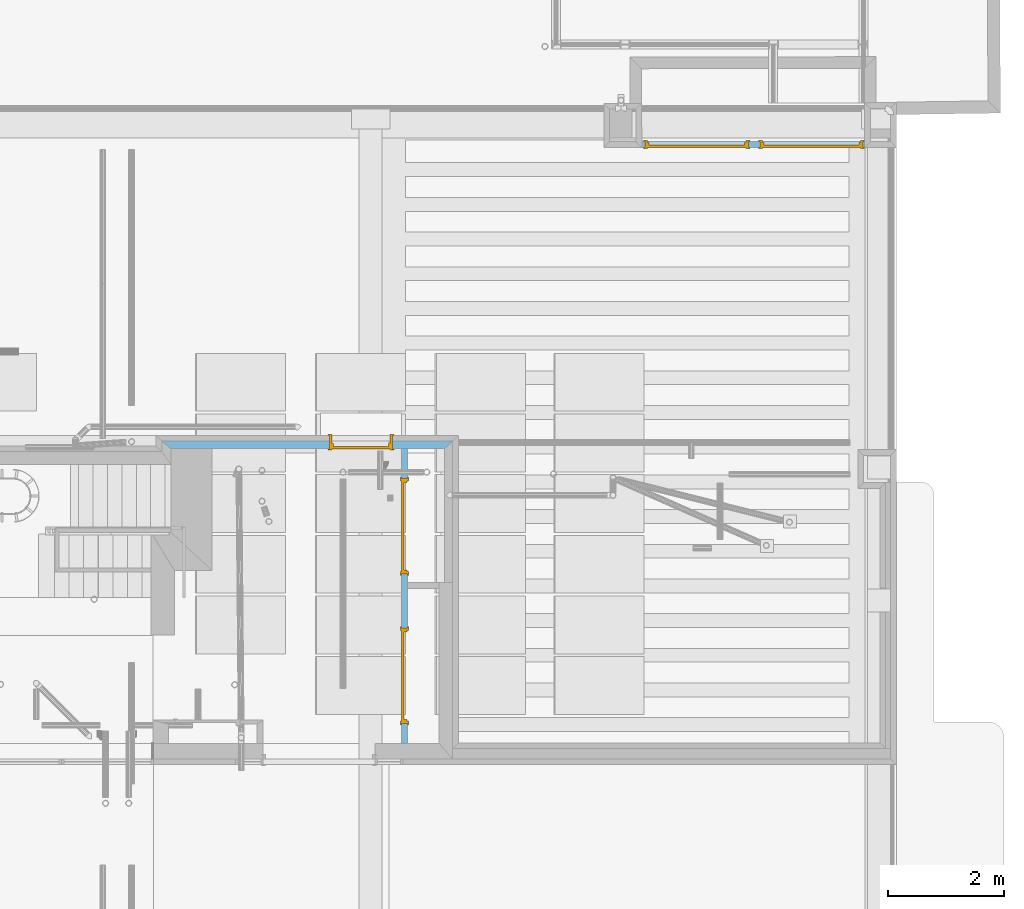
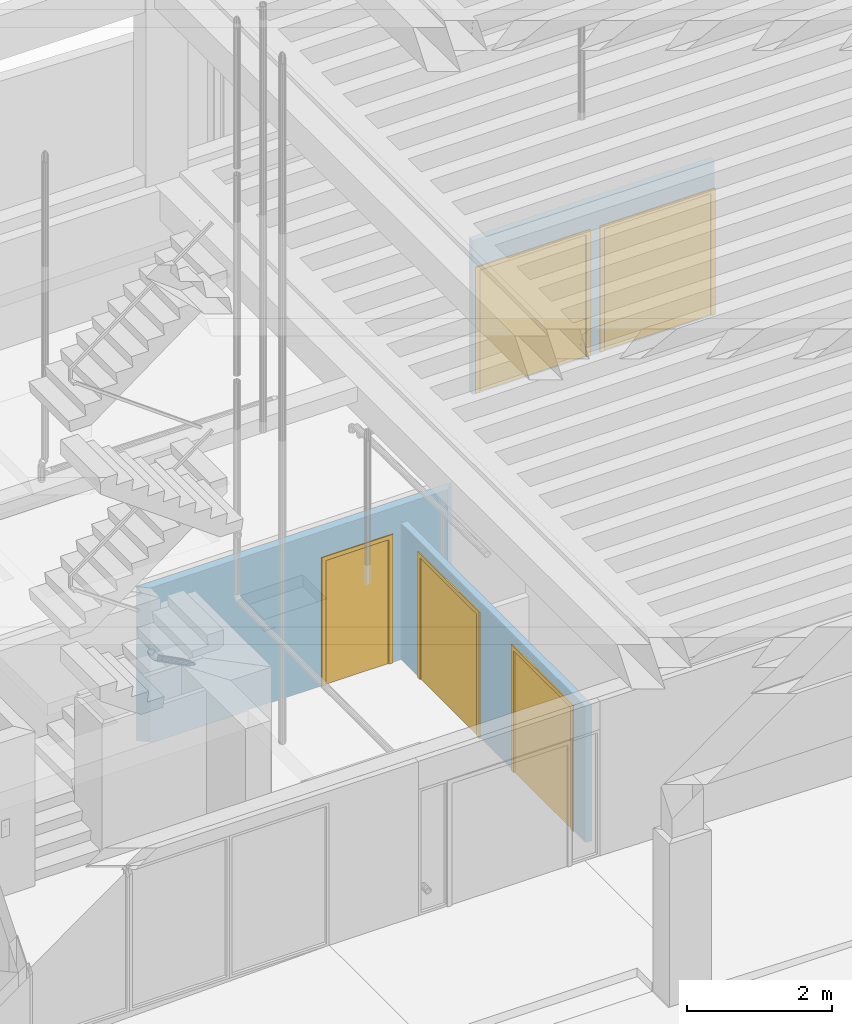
# One storey, part 23 of 108: 5 doors, 5 openings, plus 3 elements that do not belong to this part.
"""IFC2X3 building model written with IfcOpenShell, lengths in metres."""

from ifc_helpers import new_model, entity, si_unit, converted_unit, derived_unit, money_unit, direction, frame, frame_2d, origin_with_axes, place, context, subcontext, project, spatial, polyline, rectangle, outline, extrude, faceted_brep, material, layer, layer_set, layer_usage, type_object, element, fill, save


model = new_model("IFC2X3")

# Units and contexts
model_context = context("Model", 3, precision=1e-05, world=origin_with_axes(), true_north=direction((0.0, 1.0)))
body_context = subcontext(model_context, "Body", "Model", "MODEL_VIEW", scale=1.0)
ifc_project = project(units=[si_unit("LENGTHUNIT", "METRE"), si_unit("AREAUNIT", "SQUARE_METRE"), si_unit("VOLUMEUNIT", "CUBIC_METRE"), si_unit("ABSORBEDDOSEUNIT", "GRAY"), si_unit("AMOUNTOFSUBSTANCEUNIT", "MOLE"), si_unit("DOSEEQUIVALENTUNIT", "SIEVERT"), si_unit("ELECTRICCAPACITANCEUNIT", "FARAD"), si_unit("ELECTRICCHARGEUNIT", "COULOMB"), si_unit("ELECTRICCONDUCTANCEUNIT", "SIEMENS"), si_unit("ELECTRICCURRENTUNIT", "AMPERE"), si_unit("ELECTRICRESISTANCEUNIT", "OHM"), si_unit("ELECTRICVOLTAGEUNIT", "VOLT"), si_unit("ENERGYUNIT", "JOULE"), si_unit("FORCEUNIT", "NEWTON"), si_unit("FREQUENCYUNIT", "HERTZ"), si_unit("ILLUMINANCEUNIT", "LUX"), si_unit("INDUCTANCEUNIT", "HENRY"), si_unit("LUMINOUSFLUXUNIT", "LUMEN"), si_unit("LUMINOUSINTENSITYUNIT", "CANDELA"), si_unit("MAGNETICFLUXDENSITYUNIT", "TESLA"), si_unit("MAGNETICFLUXUNIT", "WEBER"), si_unit("MASSUNIT", "GRAM"), converted_unit("PLANEANGLEUNIT", "degree", entity("IfcReal", 0.0174532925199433), si_unit("PLANEANGLEUNIT", "RADIAN"), dimensions=[0, 0, 0, 0, 0, 0, 0]), si_unit("POWERUNIT", "WATT"), si_unit("PRESSUREUNIT", "PASCAL"), si_unit("RADIOACTIVITYUNIT", "BECQUEREL"), si_unit("SOLIDANGLEUNIT", "STERADIAN"), si_unit("THERMODYNAMICTEMPERATUREUNIT", "KELVIN"), si_unit("TIMEUNIT", "SECOND"), derived_unit("ACCELERATIONUNIT", [(si_unit("LENGTHUNIT", "METRE"), 1), (si_unit("TIMEUNIT", "SECOND"), -2)]), derived_unit("ANGULARVELOCITYUNIT", [(converted_unit("PLANEANGLEUNIT", "degree", entity("IfcReal", 0.0174532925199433), si_unit("PLANEANGLEUNIT", "RADIAN"), dimensions=[0, 0, 0, 0, 0, 0, 0]), 1), (si_unit("TIMEUNIT", "SECOND"), -1)]), derived_unit("CURVATUREUNIT", [(converted_unit("PLANEANGLEUNIT", "degree", entity("IfcReal", 0.0174532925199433), si_unit("PLANEANGLEUNIT", "RADIAN"), dimensions=[0, 0, 0, 0, 0, 0, 0]), 1), (si_unit("LENGTHUNIT", "METRE"), -1)]), derived_unit("DYNAMICVISCOSITYUNIT", [(si_unit("PRESSUREUNIT", "PASCAL"), 1), (si_unit("TIMEUNIT", "SECOND"), 1)]), derived_unit("HEATFLUXDENSITYUNIT", [(si_unit("POWERUNIT", "WATT"), 1), (si_unit("LENGTHUNIT", "METRE"), -2)]), derived_unit("HEATINGVALUEUNIT", [(si_unit("ENERGYUNIT", "JOULE"), 1), (si_unit("MASSUNIT", "GRAM"), -1)]), derived_unit("INTEGERCOUNTRATEUNIT", [(si_unit("TIMEUNIT", "SECOND"), -1)]), derived_unit("IONCONCENTRATIONUNIT", [(si_unit("MASSUNIT", "GRAM"), 1), (si_unit("VOLUMEUNIT", "CUBIC_METRE"), -1)]), derived_unit("ISOTHERMALMOISTURECAPACITYUNIT", [(si_unit("VOLUMEUNIT", "CUBIC_METRE"), 1), (si_unit("MASSUNIT", "GRAM"), -1)]), derived_unit("KINEMATICVISCOSITYUNIT", [(si_unit("AREAUNIT", "SQUARE_METRE"), 1), (si_unit("TIMEUNIT", "SECOND"), -1)]), derived_unit("LINEARFORCEUNIT", [(si_unit("FORCEUNIT", "NEWTON"), 1), (si_unit("LENGTHUNIT", "METRE"), -1)]), derived_unit("LINEARMOMENTUNIT", [(si_unit("FORCEUNIT", "NEWTON"), 1), (si_unit("LENGTHUNIT", "METRE"), -1)]), derived_unit("LINEARSTIFFNESSUNIT", [(si_unit("FORCEUNIT", "NEWTON"), 1), (si_unit("LENGTHUNIT", "METRE"), -1)]), derived_unit("LINEARVELOCITYUNIT", [(si_unit("LENGTHUNIT", "METRE"), 1), (si_unit("TIMEUNIT", "SECOND"), -1)]), derived_unit("LUMINOUSINTENSITYDISTRIBUTIONUNIT", [(si_unit("LUMINOUSINTENSITYUNIT", "CANDELA"), 1), (si_unit("LUMINOUSFLUXUNIT", "LUMEN"), -1)]), derived_unit("MASSDENSITYUNIT", [(si_unit("MASSUNIT", "GRAM"), 1), (si_unit("VOLUMEUNIT", "CUBIC_METRE"), -1)]), derived_unit("MASSFLOWRATEUNIT", [(si_unit("MASSUNIT", "GRAM"), 1), (si_unit("TIMEUNIT", "SECOND"), -1)]), derived_unit("MASSPERLENGTHUNIT", [(si_unit("MASSUNIT", "GRAM"), 1), (si_unit("LENGTHUNIT", "METRE"), -1)]), derived_unit("MODULUSOFELASTICITYUNIT", [(si_unit("FORCEUNIT", "NEWTON"), 1), (si_unit("AREAUNIT", "SQUARE_METRE"), -1)]), derived_unit("MODULUSOFLINEARSUBGRADEREACTIONUNIT", [(si_unit("FORCEUNIT", "NEWTON"), 1), (si_unit("LENGTHUNIT", "METRE"), -2)]), derived_unit("MODULUSOFROTATIONALSUBGRADEREACTIONUNIT", [(si_unit("FORCEUNIT", "NEWTON"), 1), (si_unit("LENGTHUNIT", "METRE"), 1)]), derived_unit("MODULUSOFSUBGRADEREACTIONUNIT", [(si_unit("FORCEUNIT", "NEWTON"), 1), (si_unit("VOLUMEUNIT", "CUBIC_METRE"), -1)]), derived_unit("MOISTUREDIFFUSIVITYUNIT", [(si_unit("VOLUMEUNIT", "CUBIC_METRE"), 1), (si_unit("TIMEUNIT", "SECOND"), -1)]), derived_unit("MOLECULARWEIGHTUNIT", [(si_unit("MASSUNIT", "GRAM"), 1), (si_unit("AMOUNTOFSUBSTANCEUNIT", "MOLE"), -1)]), derived_unit("PLANARFORCEUNIT", [(si_unit("FORCEUNIT", "NEWTON"), 1), (si_unit("LENGTHUNIT", "METRE"), -2)]), derived_unit("ROTATIONALFREQUENCYUNIT", [(si_unit("TIMEUNIT", "SECOND"), -1)]), derived_unit("ROTATIONALMASSUNIT", [(si_unit("MASSUNIT", "GRAM"), 1), (si_unit("LENGTHUNIT", "METRE"), 2)]), derived_unit("ROTATIONALSTIFFNESSUNIT", [(si_unit("FORCEUNIT", "NEWTON"), 1), (si_unit("LENGTHUNIT", "METRE"), 1), (converted_unit("PLANEANGLEUNIT", "degree", entity("IfcReal", 0.0174532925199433), si_unit("PLANEANGLEUNIT", "RADIAN"), dimensions=[0, 0, 0, 0, 0, 0, 0]), -1)]), derived_unit("SECTIONAREAINTEGRALUNIT", [(si_unit("LENGTHUNIT", "METRE"), 5)]), derived_unit("SECTIONMODULUSUNIT", [(si_unit("LENGTHUNIT", "METRE"), 3)]), derived_unit("SHEARMODULUSUNIT", [(si_unit("FORCEUNIT", "NEWTON"), 1), (si_unit("AREAUNIT", "SQUARE_METRE"), -1)]), derived_unit("SOUNDPOWERUNIT", [(si_unit("ENERGYUNIT", "JOULE"), 1), (si_unit("TIMEUNIT", "SECOND"), -1)]), derived_unit("SPECIFICHEATCAPACITYUNIT", [(si_unit("FORCEUNIT", "NEWTON"), 1), (si_unit("MASSUNIT", "GRAM"), -1), (si_unit("THERMODYNAMICTEMPERATUREUNIT", "KELVIN"), -1)]), derived_unit("TEMPERATUREGRADIENTUNIT", [(si_unit("THERMODYNAMICTEMPERATUREUNIT", "KELVIN"), 1), (si_unit("LENGTHUNIT", "METRE"), -1)]), derived_unit("THERMALADMITTANCEUNIT", [(si_unit("POWERUNIT", "WATT"), 1), (si_unit("AREAUNIT", "SQUARE_METRE"), -1), (si_unit("THERMODYNAMICTEMPERATUREUNIT", "KELVIN"), -1)]), derived_unit("THERMALCONDUCTANCEUNIT", [(si_unit("POWERUNIT", "WATT"), 1), (si_unit("LENGTHUNIT", "METRE"), -1), (si_unit("THERMODYNAMICTEMPERATUREUNIT", "KELVIN"), -1)]), derived_unit("THERMALEXPANSIONCOEFFICIENTUNIT", [(si_unit("THERMODYNAMICTEMPERATUREUNIT", "KELVIN"), -1)]), derived_unit("THERMALRESISTANCEUNIT", [(si_unit("AREAUNIT", "SQUARE_METRE"), 1), (si_unit("POWERUNIT", "WATT"), -1)]), derived_unit("THERMALTRANSMITTANCEUNIT", [(si_unit("POWERUNIT", "WATT"), 1), (si_unit("AREAUNIT", "SQUARE_METRE"), -1), (si_unit("THERMODYNAMICTEMPERATUREUNIT", "KELVIN"), -1)]), derived_unit("TORQUEUNIT", [(si_unit("FORCEUNIT", "NEWTON"), 1), (si_unit("LENGTHUNIT", "METRE"), 1)]), derived_unit("VAPORPERMEABILITYUNIT", [(si_unit("MASSUNIT", "GRAM"), 1), (si_unit("TIMEUNIT", "SECOND"), -1)]), derived_unit("VOLUMETRICFLOWRATEUNIT", [(si_unit("VOLUMEUNIT", "CUBIC_METRE"), 1), (si_unit("TIMEUNIT", "SECOND"), -1)]), derived_unit("WARPINGCONSTANTUNIT", [(si_unit("LENGTHUNIT", "METRE"), 6)]), derived_unit("WARPINGMOMENTUNIT", [(si_unit("FORCEUNIT", "NEWTON"), 1), (si_unit("LENGTHUNIT", "METRE"), 2)]), money_unit("GBP")], contexts=[model_context])

# Site, building, storey
site_placement = place(None, origin_with_axes())
site = spatial("IfcSite", under=ifc_project, at=site_placement, Name="Site", CompositionType="ELEMENT")
building_placement = place(site_placement, origin_with_axes())
building = spatial("IfcBuilding", under=site, at=building_placement, Name="Building01", CompositionType="ELEMENT")
storey_placement = place(building_placement, origin_with_axes())
storey = spatial("IfcBuildingStorey", under=building, at=storey_placement, Name="GF", CompositionType="ELEMENT", Elevation=0.0)

# Wall, openings
ifc_material_1 = material(Name="A_BSUK_WallsExternal_Brick")
ifc_layer_1 = layer(ifc_material_1, 0.1, ventilated=False)
ifc_layer_set_1 = layer_set([ifc_layer_1])
ifc_layer_usage_1 = layer_usage(ifc_layer_set_1, "AXIS2", "POSITIVE", 0.0)
wall_type_1 = type_object("IfcWallType", Name="A-Walls-ExternalBrick", PredefinedType="NOTDEFINED")
wall_1_placement = place(storey_placement, frame((22.577154, 14.134271, -0.16), z_axis=(0.0, 0.0, 1.0), x_axis=(1.0, -3.756e-05, 0.0)))
wall_1 = element("IfcWallStandardCase", 1, at=wall_1_placement, inside=storey, type_object=wall_type_1, material=ifc_layer_usage_1, Name="A-Walls-ExternalBrick", ObjectType="A-Walls-ExternalBrick", context=body_context, shape_type="SweptSolid", body=[
    extrude(outline(polyline([(3.85257, 0.1), (-0.000706, 0.1), (0.0, 0.0), (3.852568, 0.0), (3.85257, 0.1)])), origin_with_axes(), (0.0, 0.0, 1.0), 2.6),
])
opening_1_placement = place(wall_1_placement, frame((0.057998, 0.0, 0.023), z_axis=(0.0, 0.0, 1.0), x_axis=(1.0, 0.0, 0.0)))
opening_1 = element("IfcOpeningElement", 2, at=opening_1_placement, cuts=wall_1, Name="Opening", ObjectType="Opening", context=body_context, shape_type="SweptSolid", body=[
    extrude(rectangle(XDim=2.1, YDim=1.784, at=frame_2d((-0.892, 1.05), x_axis=(0.0, -1.0))), frame((0.0, 0.0, 0.0), z_axis=(0.0, 1.0, 0.0), x_axis=(-1.0, 0.0, 0.0)), (0.0, 0.0, 1.0), 0.1),
])
opening_2_placement = place(wall_1_placement, frame((2.043034, 0.0, 0.023), z_axis=(0.0, 0.0, 1.0), x_axis=(1.0, 0.0, 0.0)))
opening_2 = element("IfcOpeningElement", 3, at=opening_2_placement, cuts=wall_1, Name="Opening", ObjectType="Opening", context=body_context, shape_type="SweptSolid", body=[
    extrude(rectangle(XDim=2.1, YDim=1.784, at=frame_2d((-0.892, 1.05), x_axis=(0.0, -1.0))), frame((0.0, 0.0, 0.0), z_axis=(0.0, 1.0, 0.0), x_axis=(-1.0, 0.0, 0.0)), (0.0, 0.0, 1.0), 0.1),
])

# Space
space_1_placement = place(storey_placement, frame((21.91816, 14.897172, 0.0), z_axis=(0.0, 0.0, 1.0), x_axis=(-1.0, 0.0, 0.0)))
space_1 = spatial("IfcSpace", under=storey, at=space_1_placement, Name="UNDERCROFT (back)", CompositionType="ELEMENT", InteriorOrExteriorSpace="NOTDEFINED")

# Door
ifc_material_2 = material(Name="A_BSUK_Doors")
door_style_1 = type_object("IfcDoorStyle", Name="A-Doors-DoubleFlush", ConstructionType="USERDEFINED", OperationType="DOUBLE_DOOR_SINGLE_SWING", ParameterTakesPrecedence=False, Sizeable=False)
door_1_placement = place(opening_1_placement, frame((1.742, -1e-06, 0.0), z_axis=(0.0, 0.0, 1.0), x_axis=(-1.0, 0.0, 0.0)))
door_1 = element("IfcDoor", 4, at=door_1_placement, inside=space_1, type_object=door_style_1, material=ifc_material_2, Name="0.02", ObjectType="A-Doors-DoubleFlush", OverallHeight=2.1, OverallWidth=1.784, context=body_context, shape_type="Brep", body=[
    faceted_brep([(0.0, -0.119, 2.058), (1.7, -0.119, 2.058), (1.7, -0.119, 0.0), (1.769, -0.119, 0.0), (1.769, -0.119, 2.127), (-0.069, -0.119, 2.127), (-0.069, -0.119, 0.0), (0.0, -0.119, 0.0), (1.769, -0.1, 2.127), (1.769, -0.1, 0.0), (-0.069, -0.1, 0.0), (-0.069, -0.1, 2.127), (-0.042, -0.1, 0.0), (-0.042, 0.0, 0.0), (-0.069, 0.0, 0.0), (-0.069, 0.019, 0.0), (0.0, 0.019, 0.0), (0.0, 0.019, 2.058), (1.7, 0.019, 2.058), (-0.069, 0.019, 2.127), (1.769, 0.019, 2.127), (1.769, 0.019, 0.0), (1.7, 0.019, 0.0), (-0.069, 0.0, 2.127), (-0.042, 0.0, 2.1), (-0.042, -0.1, 2.1), (1.742, 0.0, 2.1), (1.742, -0.1, 2.1), (1.742, -0.1, 0.0), (1.742, 0.0, 0.0), (1.769, 0.0, 0.0), (1.769, 0.0, 2.127)], [[[0, 1, 2, 3, 4, 5, 6, 7]], [[8, 4, 3, 9]], [[10, 6, 5, 11]], [[11, 5, 4, 8]], [[7, 6, 10, 12, 13, 14, 15, 16]], [[7, 16, 17, 0]], [[0, 17, 18, 1]], [[17, 16, 15, 19, 20, 21, 22, 18]], [[1, 18, 22, 2]], [[14, 23, 19, 15]], [[24, 13, 12, 25]], [[26, 24, 25, 27]], [[11, 8, 9, 28, 27, 25, 12, 10]], [[27, 28, 29, 26]], [[26, 29, 30, 31, 23, 14, 13, 24]], [[22, 21, 30, 29, 28, 9, 3, 2]], [[30, 21, 20, 31]], [[31, 20, 19, 23]]]),
    faceted_brep([(1.7, -0.09, 0.0), (1.7, -0.04, 0.0), (1.7, -0.04, 2.058), (1.7, -0.09, 2.058), (0.025, -0.09, 2.033), (1.675, -0.09, 2.033), (1.675, -0.09, 0.0), (0.0, -0.09, 2.058), (0.0, -0.09, 0.0), (0.025, -0.09, 0.0), (0.0, -0.04, 0.0), (0.025, -0.04, 0.0), (0.0, -0.04, 2.058), (0.025, -0.04, 2.033), (1.675, -0.04, 0.0), (1.675, -0.04, 2.033)], [[[0, 1, 2, 3]], [[4, 5, 6, 0, 3, 7, 8, 9]], [[9, 8, 10, 11]], [[3, 2, 12, 7]], [[7, 12, 10, 8]], [[13, 11, 10, 12, 2, 1, 14, 15]], [[5, 15, 14, 6]], [[14, 1, 0, 6]], [[9, 11, 13, 4]], [[4, 13, 15, 5]]]),
    faceted_brep([(0.0, -0.04, 2.058), (0.0, 0.0, 2.058), (0.0, 0.0, 0.0), (0.0, -0.04, 0.0), (0.85, -0.04, 0.0), (0.85, 0.0, 0.0), (0.85, 0.0, 2.058), (0.85, -0.04, 2.058)], [[[0, 1, 2, 3]], [[4, 5, 6, 7]], [[3, 2, 5, 4]], [[3, 4, 7, 0]], [[7, 6, 1, 0]], [[1, 6, 5, 2]]]),
    faceted_brep([(0.85, -0.04, 2.058), (0.85, 0.0, 2.058), (0.85, 0.0, 0.0), (0.85, -0.04, 0.0), (1.7, -0.04, 0.0), (1.7, 0.0, 0.0), (1.7, 0.0, 2.058), (1.7, -0.04, 2.058)], [[[0, 1, 2, 3]], [[4, 5, 6, 7]], [[3, 2, 5, 4]], [[3, 4, 7, 0]], [[7, 6, 1, 0]], [[1, 6, 5, 2]]]),
])

fill(opening_1, door_1)

door_2_placement = place(opening_2_placement, frame((1.742, 7.4e-05, 0.0), z_axis=(0.0, 0.0, 1.0), x_axis=(-1.0, 0.0, 0.0)))
door_2 = element("IfcDoor", 5, at=door_2_placement, inside=space_1, type_object=door_style_1, material=ifc_material_2, Name="0.03", ObjectType="A-Doors-DoubleFlush", OverallHeight=2.1, OverallWidth=1.78400000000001, context=body_context, shape_type="Brep", body=[
    faceted_brep([(0.0, -0.119, 2.058), (1.7, -0.119, 2.058), (1.7, -0.119, 0.0), (1.769, -0.119, 0.0), (1.769, -0.119, 2.127), (-0.069, -0.119, 2.127), (-0.069, -0.119, 0.0), (0.0, -0.119, 0.0), (1.769, -0.1, 2.127), (1.769, -0.1, 0.0), (-0.069, -0.1, 0.0), (-0.069, -0.1, 2.127), (-0.042, -0.1, 0.0), (-0.042, 0.0, 0.0), (-0.069, 0.0, 0.0), (-0.069, 0.019, 0.0), (0.0, 0.019, 0.0), (0.0, 0.019, 2.058), (1.7, 0.019, 2.058), (-0.069, 0.019, 2.127), (1.769, 0.019, 2.127), (1.769, 0.019, 0.0), (1.7, 0.019, 0.0), (-0.069, 0.0, 2.127), (-0.042, 0.0, 2.1), (-0.042, -0.1, 2.1), (1.742, 0.0, 2.1), (1.742, -0.1, 2.1), (1.742, -0.1, 0.0), (1.742, 0.0, 0.0), (1.769, 0.0, 0.0), (1.769, 0.0, 2.127)], [[[0, 1, 2, 3, 4, 5, 6, 7]], [[8, 4, 3, 9]], [[10, 6, 5, 11]], [[11, 5, 4, 8]], [[7, 6, 10, 12, 13, 14, 15, 16]], [[7, 16, 17, 0]], [[0, 17, 18, 1]], [[17, 16, 15, 19, 20, 21, 22, 18]], [[1, 18, 22, 2]], [[14, 23, 19, 15]], [[24, 13, 12, 25]], [[26, 24, 25, 27]], [[11, 8, 9, 28, 27, 25, 12, 10]], [[27, 28, 29, 26]], [[26, 29, 30, 31, 23, 14, 13, 24]], [[22, 21, 30, 29, 28, 9, 3, 2]], [[30, 21, 20, 31]], [[31, 20, 19, 23]]]),
    faceted_brep([(1.7, -0.09, 0.0), (1.7, -0.04, 0.0), (1.7, -0.04, 2.058), (1.7, -0.09, 2.058), (0.025, -0.09, 2.033), (1.675, -0.09, 2.033), (1.675, -0.09, 0.0), (0.0, -0.09, 2.058), (0.0, -0.09, 0.0), (0.025, -0.09, 0.0), (0.0, -0.04, 0.0), (0.025, -0.04, 0.0), (0.0, -0.04, 2.058), (0.025, -0.04, 2.033), (1.675, -0.04, 0.0), (1.675, -0.04, 2.033)], [[[0, 1, 2, 3]], [[4, 5, 6, 0, 3, 7, 8, 9]], [[9, 8, 10, 11]], [[3, 2, 12, 7]], [[7, 12, 10, 8]], [[13, 11, 10, 12, 2, 1, 14, 15]], [[5, 15, 14, 6]], [[14, 1, 0, 6]], [[9, 11, 13, 4]], [[4, 13, 15, 5]]]),
    faceted_brep([(0.0, -0.04, 2.058), (0.0, 0.0, 2.058), (0.0, 0.0, 0.0), (0.0, -0.04, 0.0), (0.85, -0.04, 0.0), (0.85, 0.0, 0.0), (0.85, 0.0, 2.058), (0.85, -0.04, 2.058)], [[[0, 1, 2, 3]], [[4, 5, 6, 7]], [[3, 2, 5, 4]], [[3, 4, 7, 0]], [[7, 6, 1, 0]], [[1, 6, 5, 2]]]),
    faceted_brep([(0.85, -0.04, 2.058), (0.85, 0.0, 2.058), (0.85, 0.0, 0.0), (0.85, -0.04, 0.0), (1.7, -0.04, 0.0), (1.7, 0.0, 0.0), (1.7, 0.0, 2.058), (1.7, -0.04, 2.058)], [[[0, 1, 2, 3]], [[4, 5, 6, 7]], [[3, 2, 5, 4]], [[3, 4, 7, 0]], [[7, 6, 1, 0]], [[1, 6, 5, 2]]]),
])

fill(opening_2, door_2)

# Wall, opening
ifc_material_3 = material(Name="A_BSUK_WallsExternal_Block")
ifc_layer_2 = layer(ifc_material_3, 0.131, ventilated=False)
ifc_layer_set_2 = layer_set([ifc_layer_2])
ifc_layer_usage_2 = layer_usage(ifc_layer_set_2, "AXIS2", "POSITIVE", 0.0)
wall_type_2 = type_object("IfcWallType", Name="A-Walls-ExternalBlock", PredefinedType="NOTDEFINED")
wall_2_placement = place(storey_placement, frame((14.43135, 8.922145, 0.0), z_axis=(0.0, 0.0, 1.0), x_axis=(1.0, 0.0, 0.0)))
wall_2 = element("IfcWallStandardCase", 6, at=wall_2_placement, inside=storey, type_object=wall_type_2, material=ifc_layer_usage_2, Name="A-Walls-ExternalBlock", ObjectType="A-Walls-ExternalBlock", context=body_context, shape_type="SweptSolid", body=[
    extrude(outline(polyline([(4.871617, 0.131), (-0.159, 0.131), (0.0, 0.0), (4.733617, 0.0), (4.871617, 0.131)])), origin_with_axes(), (0.0, 0.0, 1.0), 2.6),
])
opening_3_placement = place(wall_2_placement, frame((2.745216, 0.0, 0.0), z_axis=(0.0, 0.0, 1.0), x_axis=(1.0, 0.0, 0.0)))
opening_3 = element("IfcOpeningElement", 7, at=opening_3_placement, cuts=wall_2, Name="Opening", ObjectType="Opening", context=body_context, shape_type="SweptSolid", body=[
    extrude(rectangle(XDim=1.084, YDim=2.142, at=frame_2d((-0.542, 1.071), x_axis=(1.0, 0.0))), frame((0.0, 0.0, 0.0), z_axis=(0.0, 1.0, 0.0), x_axis=(-1.0, 0.0, 0.0)), (0.0, 0.0, 1.0), 0.131),
])

# Space
space_2_placement = place(storey_placement, frame((9.419099, 6.725761, 0.0), z_axis=(0.0, 0.0, 1.0), x_axis=(0.0, -1.0, 0.0)))
space_2 = spatial("IfcSpace", under=storey, at=space_2_placement, Name="ENTRANCE", CompositionType="ELEMENT", InteriorOrExteriorSpace="NOTDEFINED")

# Door
door_style_2 = type_object("IfcDoorStyle", Name="A-Doors-SingleFlush", ConstructionType="USERDEFINED", OperationType="SINGLE_SWING_LEFT", ParameterTakesPrecedence=False, Sizeable=False)
door_3_placement = place(opening_3_placement, frame((1.042, -0.000181, 0.0), z_axis=(0.0, 0.0, 1.0), x_axis=(-1.0, 0.0, 0.0)))
door_3 = element("IfcDoor", 8, at=door_3_placement, inside=space_2, type_object=door_style_2, material=ifc_material_2, Name="0.04", ObjectType="A-Doors-SingleFlush", OverallHeight=2.142, OverallWidth=1.084, context=body_context, shape_type="Brep", body=[
    faceted_brep([(0.0, -0.25, 2.1), (1.0, -0.25, 2.1), (1.0, -0.25, 0.0), (1.069, -0.25, 0.0), (1.069, -0.25, 2.169), (-0.069, -0.25, 2.169), (-0.069, -0.25, 0.0), (0.0, -0.25, 0.0), (1.069, -0.231, 2.169), (1.069, -0.231, 0.0), (-0.069, -0.231, 0.0), (-0.069, -0.231, 2.169), (-0.042, -0.231, 0.0), (-0.042, 0.0, 0.0), (-0.069, 0.0, 0.0), (-0.069, 0.019, 0.0), (0.0, 0.019, 0.0), (0.0, 0.019, 2.1), (1.0, 0.019, 2.1), (-0.069, 0.019, 2.169), (1.069, 0.019, 2.169), (1.069, 0.019, 0.0), (1.0, 0.019, 0.0), (-0.069, 0.0, 2.169), (-0.042, 0.0, 2.142), (-0.042, -0.231, 2.142), (1.042, 0.0, 2.142), (1.042, -0.231, 2.142), (1.042, -0.231, 0.0), (1.042, 0.0, 0.0), (1.069, 0.0, 0.0), (1.069, 0.0, 2.169)], [[[0, 1, 2, 3, 4, 5, 6, 7]], [[8, 4, 3, 9]], [[10, 6, 5, 11]], [[11, 5, 4, 8]], [[7, 6, 10, 12, 13, 14, 15, 16]], [[7, 16, 17, 0]], [[0, 17, 18, 1]], [[17, 16, 15, 19, 20, 21, 22, 18]], [[1, 18, 22, 2]], [[14, 23, 19, 15]], [[24, 13, 12, 25]], [[26, 24, 25, 27]], [[11, 8, 9, 28, 27, 25, 12, 10]], [[27, 28, 29, 26]], [[26, 29, 30, 31, 23, 14, 13, 24]], [[22, 21, 30, 29, 28, 9, 3, 2]], [[30, 21, 20, 31]], [[31, 20, 19, 23]]]),
    faceted_brep([(1.0, -0.09, 0.0), (1.0, -0.04, 0.0), (1.0, -0.04, 2.1), (1.0, -0.09, 2.1), (0.025, -0.09, 2.075), (0.975, -0.09, 2.075), (0.975, -0.09, 0.0), (0.0, -0.09, 2.1), (0.0, -0.09, 0.0), (0.025, -0.09, 0.0), (0.0, -0.04, 0.0), (0.025, -0.04, 0.0), (0.0, -0.04, 2.1), (0.025, -0.04, 2.075), (0.975, -0.04, 0.0), (0.975, -0.04, 2.075)], [[[0, 1, 2, 3]], [[4, 5, 6, 0, 3, 7, 8, 9]], [[9, 8, 10, 11]], [[3, 2, 12, 7]], [[7, 12, 10, 8]], [[13, 11, 10, 12, 2, 1, 14, 15]], [[5, 15, 14, 6]], [[14, 1, 0, 6]], [[9, 11, 13, 4]], [[4, 13, 15, 5]]]),
    faceted_brep([(0.0, -0.04, 2.1), (0.0, 0.0, 2.1), (0.0, 0.0, 0.0), (0.0, -0.04, 0.0), (1.0, -0.04, 0.0), (1.0, 0.0, 0.0), (1.0, 0.0, 2.1), (1.0, -0.04, 2.1)], [[[0, 1, 2, 3]], [[4, 5, 6, 7]], [[3, 2, 5, 4]], [[3, 4, 7, 0]], [[7, 6, 1, 0]], [[1, 6, 5, 2]]]),
])

fill(opening_3, door_3)

# Wall, openings, doors
ifc_material_4 = material(Name="A_BSUK_WallsInternal")
ifc_layer_3 = layer(ifc_material_4, 0.103, ventilated=False)
ifc_layer_set_3 = layer_set([ifc_layer_3])
ifc_layer_usage_3 = layer_usage(ifc_layer_set_3, "AXIS2", "POSITIVE", 0.0)
wall_type_3 = type_object("IfcWallType", Name="A-Walls-Internal", PredefinedType="NOTDEFINED")
wall_3_placement = place(storey_placement, frame((18.421562, 8.922145, 0.0), z_axis=(0.0, 0.0, 1.0), x_axis=(0.0, -1.0, 0.0)))
wall_3 = element("IfcWallStandardCase", 9, at=wall_3_placement, inside=storey, type_object=wall_type_3, material=ifc_layer_usage_3, Name="A-Walls-Internal", ObjectType="A-Walls-Internal", context=body_context, shape_type="SweptSolid", body=[
    extrude(rectangle(XDim=5.098183, YDim=0.103, at=frame_2d((2.549092, 0.0515), x_axis=(-1.0, 0.0))), origin_with_axes(), (0.0, 0.0, 1.0), 2.3),
])
opening_4_placement = place(wall_3_placement, frame((0.515284, 0.0, 0.0), z_axis=(0.0, 0.0, 1.0), x_axis=(1.0, 0.0, 0.0)))
opening_4 = element("IfcOpeningElement", 10, at=opening_4_placement, cuts=wall_3, Name="Opening", ObjectType="Opening", context=body_context, shape_type="Brep", body=[
    faceted_brep([(0.0, 0.0, 2.1), (0.0, 0.0, 0.0), (1.649, 0.0, 0.0), (1.649, 0.0, 2.1), (4e-06, 0.103, 0.0), (4e-06, 0.103, 2.1), (1.649004, 0.103, 2.1), (1.649004, 0.103, 0.0)], [[[0, 1, 2, 3]], [[4, 5, 6, 7]], [[1, 4, 7, 2]], [[5, 0, 3, 6]], [[4, 1, 0, 5]], [[6, 3, 2, 7]]]),
])
opening_5_placement = place(wall_3_placement, frame((3.103568, 0.0, 0.0), z_axis=(0.0, 0.0, 1.0), x_axis=(1.0, 0.0, 0.0)))
opening_5 = element("IfcOpeningElement", 11, at=opening_5_placement, cuts=wall_3, Name="Opening", ObjectType="Opening", context=body_context, shape_type="Brep", body=[
    faceted_brep([(0.0, 0.0, 2.1), (0.0, 0.0, 0.0), (1.649, 0.0, 0.0), (1.649, 0.0, 2.1), (4e-06, 0.103, 0.0), (4e-06, 0.103, 2.1), (1.649004, 0.103, 2.1), (1.649004, 0.103, 0.0)], [[[0, 1, 2, 3]], [[4, 5, 6, 7]], [[1, 4, 7, 2]], [[5, 0, 3, 6]], [[4, 1, 0, 5]], [[6, 3, 2, 7]]]),
])
door_style_3 = type_object("IfcDoorStyle", Name="A-Doors-DoubleFlush", ConstructionType="USERDEFINED", OperationType="DOUBLE_DOOR_SINGLE_SWING", ParameterTakesPrecedence=False, Sizeable=False)
door_4_placement = place(opening_4_placement, frame((1.607, -7.8e-05, 0.0), z_axis=(0.0, 0.0, 1.0), x_axis=(-1.0, 3.756e-05, 0.0)))
door_4 = element("IfcDoor", 12, at=door_4_placement, inside=space_2, type_object=door_style_3, material=ifc_material_2, Name="0.06", ObjectType="A-Doors-DoubleFlush", OverallHeight=2.12700000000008, OverallWidth=1.70300000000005, context=body_context, shape_type="Brep", body=[
    faceted_brep([(0.0, -0.122, 2.058), (1.565, -0.122, 2.058), (1.565, -0.122, 0.0), (1.634, -0.122, 0.0), (1.634, -0.122, 2.127), (-0.069, -0.122, 2.127), (-0.069, -0.122, 0.0), (0.0, -0.122, 0.0), (1.634, -0.103, 2.127), (1.634, -0.103, 0.0), (-0.069, -0.103, 0.0), (-0.069, -0.103, 2.127), (-0.042, -0.103, 0.0), (-0.042, 0.0, 0.0), (-0.069, 0.0, 0.0), (-0.069, 0.019, 0.0), (0.0, 0.019, 0.0), (0.0, 0.019, 2.058), (1.565, 0.019, 2.058), (-0.069, 0.019, 2.127), (1.634, 0.019, 2.127), (1.634, 0.019, 0.0), (1.565, 0.019, 0.0), (-0.069, 0.0, 2.127), (-0.042, 0.0, 2.1), (-0.042, -0.103, 2.1), (1.607, 0.0, 2.1), (1.607, -0.103, 2.1), (1.607, -0.103, 0.0), (1.607, 0.0, 0.0), (1.634, 0.0, 0.0), (1.634, 0.0, 2.127)], [[[0, 1, 2, 3, 4, 5, 6, 7]], [[8, 4, 3, 9]], [[10, 6, 5, 11]], [[11, 5, 4, 8]], [[7, 6, 10, 12, 13, 14, 15, 16]], [[7, 16, 17, 0]], [[0, 17, 18, 1]], [[17, 16, 15, 19, 20, 21, 22, 18]], [[1, 18, 22, 2]], [[14, 23, 19, 15]], [[24, 13, 12, 25]], [[26, 24, 25, 27]], [[11, 8, 9, 28, 27, 25, 12, 10]], [[27, 28, 29, 26]], [[26, 29, 30, 31, 23, 14, 13, 24]], [[22, 21, 30, 29, 28, 9, 3, 2]], [[30, 21, 20, 31]], [[31, 20, 19, 23]]]),
    faceted_brep([(1.565, -0.09, 0.0), (1.565, -0.04, 0.0), (1.565, -0.04, 2.058), (1.565, -0.09, 2.058), (0.025, -0.09, 2.033), (1.54, -0.09, 2.033), (1.54, -0.09, 0.0), (0.0, -0.09, 2.058), (0.0, -0.09, 0.0), (0.025, -0.09, 0.0), (0.0, -0.04, 0.0), (0.025, -0.04, 0.0), (0.0, -0.04, 2.058), (0.025, -0.04, 2.033), (1.54, -0.04, 0.0), (1.54, -0.04, 2.033)], [[[0, 1, 2, 3]], [[4, 5, 6, 0, 3, 7, 8, 9]], [[9, 8, 10, 11]], [[3, 2, 12, 7]], [[7, 12, 10, 8]], [[13, 11, 10, 12, 2, 1, 14, 15]], [[5, 15, 14, 6]], [[14, 1, 0, 6]], [[9, 11, 13, 4]], [[4, 13, 15, 5]]]),
    faceted_brep([(0.0, -0.04, 2.058), (0.0, 0.0, 2.058), (0.0, 0.0, 0.0), (0.0, -0.04, 0.0), (0.7825, -0.04, 0.0), (0.7825, 0.0, 0.0), (0.7825, 0.0, 2.058), (0.7825, -0.04, 2.058)], [[[0, 1, 2, 3]], [[4, 5, 6, 7]], [[3, 2, 5, 4]], [[3, 4, 7, 0]], [[7, 6, 1, 0]], [[1, 6, 5, 2]]]),
    faceted_brep([(0.7825, -0.04, 2.058), (0.7825, 0.0, 2.058), (0.7825, 0.0, 0.0), (0.7825, -0.04, 0.0), (1.565, -0.04, 0.0), (1.565, 0.0, 0.0), (1.565, 0.0, 2.058), (1.565, -0.04, 2.058)], [[[0, 1, 2, 3]], [[4, 5, 6, 7]], [[3, 2, 5, 4]], [[3, 4, 7, 0]], [[7, 6, 1, 0]], [[1, 6, 5, 2]]]),
])
fill(opening_4, door_4)
door_5_placement = place(opening_5_placement, frame((1.607, -7.8e-05, 0.0), z_axis=(0.0, 0.0, 1.0), x_axis=(-1.0, 3.756e-05, 0.0)))
door_5 = element("IfcDoor", 13, at=door_5_placement, inside=space_2, type_object=door_style_3, material=ifc_material_2, Name="0.07", ObjectType="A-Doors-DoubleFlush", OverallHeight=2.12700000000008, OverallWidth=1.70300000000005, context=body_context, shape_type="Brep", body=[
    faceted_brep([(0.0, -0.122, 2.058), (1.565, -0.122, 2.058), (1.565, -0.122, 0.0), (1.634, -0.122, 0.0), (1.634, -0.122, 2.127), (-0.069, -0.122, 2.127), (-0.069, -0.122, 0.0), (0.0, -0.122, 0.0), (1.634, -0.103, 2.127), (1.634, -0.103, 0.0), (-0.069, -0.103, 0.0), (-0.069, -0.103, 2.127), (-0.042, -0.103, 0.0), (-0.042, 0.0, 0.0), (-0.069, 0.0, 0.0), (-0.069, 0.019, 0.0), (0.0, 0.019, 0.0), (0.0, 0.019, 2.058), (1.565, 0.019, 2.058), (-0.069, 0.019, 2.127), (1.634, 0.019, 2.127), (1.634, 0.019, 0.0), (1.565, 0.019, 0.0), (-0.069, 0.0, 2.127), (-0.042, 0.0, 2.1), (-0.042, -0.103, 2.1), (1.607, 0.0, 2.1), (1.607, -0.103, 2.1), (1.607, -0.103, 0.0), (1.607, 0.0, 0.0), (1.634, 0.0, 0.0), (1.634, 0.0, 2.127)], [[[0, 1, 2, 3, 4, 5, 6, 7]], [[8, 4, 3, 9]], [[10, 6, 5, 11]], [[11, 5, 4, 8]], [[7, 6, 10, 12, 13, 14, 15, 16]], [[7, 16, 17, 0]], [[0, 17, 18, 1]], [[17, 16, 15, 19, 20, 21, 22, 18]], [[1, 18, 22, 2]], [[14, 23, 19, 15]], [[24, 13, 12, 25]], [[26, 24, 25, 27]], [[11, 8, 9, 28, 27, 25, 12, 10]], [[27, 28, 29, 26]], [[26, 29, 30, 31, 23, 14, 13, 24]], [[22, 21, 30, 29, 28, 9, 3, 2]], [[30, 21, 20, 31]], [[31, 20, 19, 23]]]),
    faceted_brep([(1.565, -0.09, 0.0), (1.565, -0.04, 0.0), (1.565, -0.04, 2.058), (1.565, -0.09, 2.058), (0.025, -0.09, 2.033), (1.54, -0.09, 2.033), (1.54, -0.09, 0.0), (0.0, -0.09, 2.058), (0.0, -0.09, 0.0), (0.025, -0.09, 0.0), (0.0, -0.04, 0.0), (0.025, -0.04, 0.0), (0.0, -0.04, 2.058), (0.025, -0.04, 2.033), (1.54, -0.04, 0.0), (1.54, -0.04, 2.033)], [[[0, 1, 2, 3]], [[4, 5, 6, 0, 3, 7, 8, 9]], [[9, 8, 10, 11]], [[3, 2, 12, 7]], [[7, 12, 10, 8]], [[13, 11, 10, 12, 2, 1, 14, 15]], [[5, 15, 14, 6]], [[14, 1, 0, 6]], [[9, 11, 13, 4]], [[4, 13, 15, 5]]]),
    faceted_brep([(0.0, -0.04, 2.058), (0.0, 0.0, 2.058), (0.0, 0.0, 0.0), (0.0, -0.04, 0.0), (0.7825, -0.04, 0.0), (0.7825, 0.0, 0.0), (0.7825, 0.0, 2.058), (0.7825, -0.04, 2.058)], [[[0, 1, 2, 3]], [[4, 5, 6, 7]], [[3, 2, 5, 4]], [[3, 4, 7, 0]], [[7, 6, 1, 0]], [[1, 6, 5, 2]]]),
    faceted_brep([(0.7825, -0.04, 2.058), (0.7825, 0.0, 2.058), (0.7825, 0.0, 0.0), (0.7825, -0.04, 0.0), (1.565, -0.04, 0.0), (1.565, 0.0, 0.0), (1.565, 0.0, 2.058), (1.565, -0.04, 2.058)], [[[0, 1, 2, 3]], [[4, 5, 6, 7]], [[3, 2, 5, 4]], [[3, 4, 7, 0]], [[7, 6, 1, 0]], [[1, 6, 5, 2]]]),
])
fill(opening_5, door_5)

save(model, "model.ifc")
